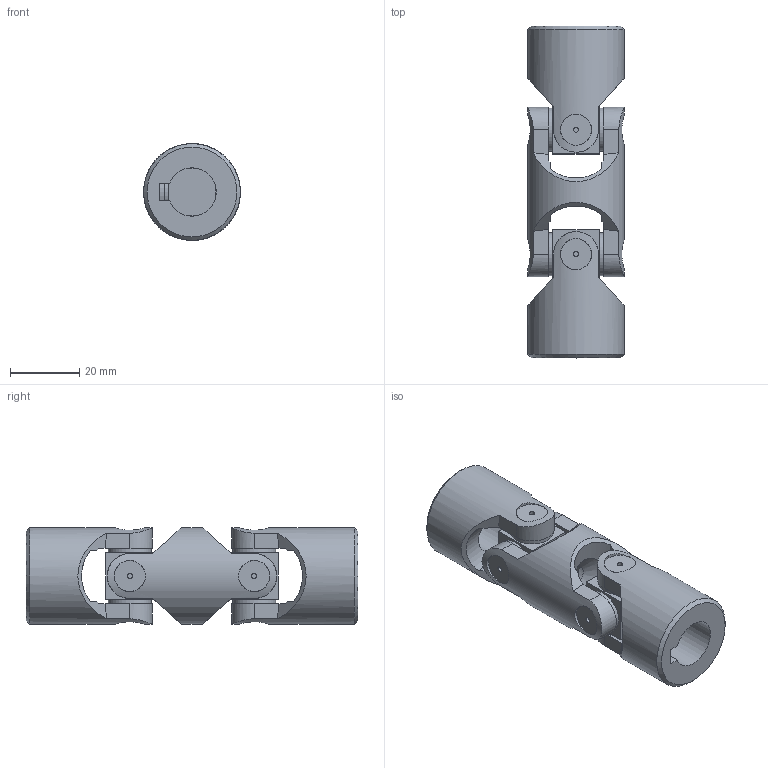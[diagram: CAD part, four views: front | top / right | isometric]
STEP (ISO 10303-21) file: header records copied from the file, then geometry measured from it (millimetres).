
FILE_DESCRIPTION(/* description */ (''),/* implementation_level */ '2;1');
FILE_NAME(/* name */ '\\SRV2016\Societa\Stefano\Disegni 3D\00Catalogo 3D\02Doppi GD-GBD\SG0D141C.stp',/* time_stamp */ '2021-11-22T17:08:20+01:00',/* author */ ('acquisti'),/* organization */ (''),/* preprocessor_version */ 'ST-DEVELOPER v15.6',/* originating_system */ 'Autodesk Inventor 2015',/* authorisation */ '');
FILE_SCHEMA (('AUTOMOTIVE_DESIGN { 1 0 10303 214 3 1 1 }'));
Length unit declared in the file: millimetre
Products named in the file (5): 05G MOD; 05G SFE; 05G MOC; 05G MOS; Ø22_05GD-00_SG0D1400
Assembly tree (5 placements, depth 2):
  Ø22_05GD-00_SG0D1400
    05G MOD
    05G SFE  x2
    05G MOC
    05G MOS
Bounding box: 28 x 96 x 28 mm (x, y, z)
Volume: 37390 mm3; surface area: 16368.3 mm2
Topology: 5 solids, 5 shells, 140 faces, 342 edges, 232 vertices
Faces by surface type: plane 73, cylinder 41, cone 22, torus 4
Full cylindrical faces by diameter (mm): 1.5 x8, 9 x8, 12.5 x8, 14 x1, 14.5 x3, 28 x3
Entity records: 4369 total; most frequent: CARTESIAN_POINT 1583, ORIENTED_EDGE 536, DIRECTION 531, EDGE_CURVE 268, AXIS2_PLACEMENT_3D 231, VERTEX_POINT 202, EDGE_LOOP 184, FACE_OUTER_BOUND 126
